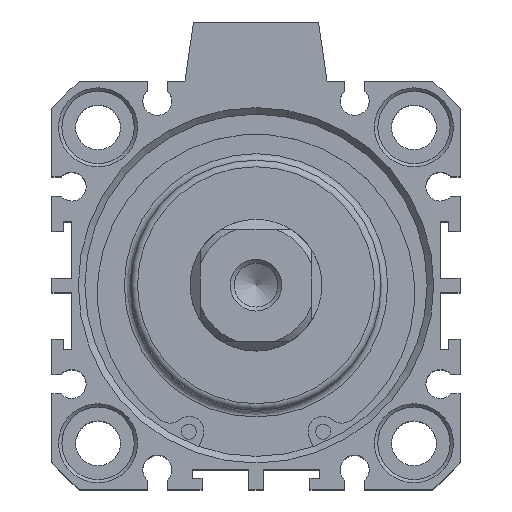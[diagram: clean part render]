
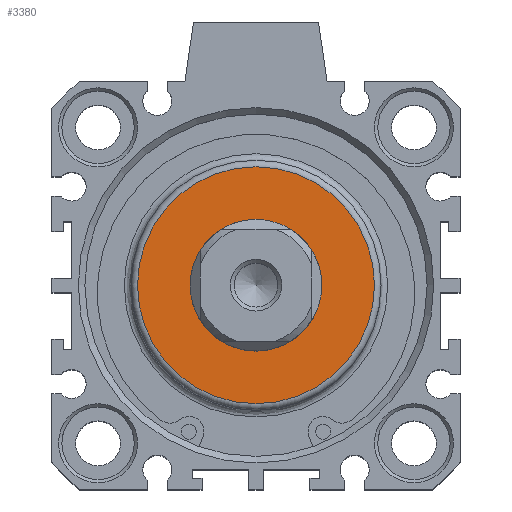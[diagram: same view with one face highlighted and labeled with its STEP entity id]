
A CAD part, top view. The second image highlights one B-rep face of the part: STEP entity #3380.
In plain terms, the highlighted planar face has unit normal (0, 0, 1).
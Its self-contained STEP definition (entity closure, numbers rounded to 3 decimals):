
#2900=CARTESIAN_POINT('',(-7.057,11.794,62.5));
#2901=VERTEX_POINT('',#2900);
#2902=CARTESIAN_POINT('',(-7.057,1.794,62.5));
#2903=DIRECTION('',(0.0,0.0,-1.0));
#2904=DIRECTION('',(0.0,1.0,0.0));
#2905=AXIS2_PLACEMENT_3D('',#2902,#2903,#2904);
#2906=CIRCLE('',#2905,10.);
#2907=EDGE_CURVE('',#2901,#2901,#2906,.T.);
#3354=CARTESIAN_POINT('',(-7.057,19.794,62.5));
#3355=VERTEX_POINT('',#3354);
#3356=CARTESIAN_POINT('',(-7.057,1.794,62.5));
#3357=DIRECTION('',(0.0,0.0,-1.0));
#3358=DIRECTION('',(0.0,-1.0,0.0));
#3359=AXIS2_PLACEMENT_3D('',#3356,#3357,#3358);
#3360=CIRCLE('',#3359,18.0);
#3361=EDGE_CURVE('',#3355,#3355,#3360,.T.);
#3369=CARTESIAN_POINT('',(-7.057,11.294,62.5));
#3370=DIRECTION('',(0.0,0.0,1.0));
#3371=DIRECTION('',(1.0,0.0,0.0));
#3372=AXIS2_PLACEMENT_3D('',#3369,#3370,#3371);
#3373=PLANE('',#3372);
#3374=ORIENTED_EDGE('',*,*,#3361,.F.);
#3375=EDGE_LOOP('',(#3374));
#3376=FACE_OUTER_BOUND('',#3375,.T.);
#3377=ORIENTED_EDGE('',*,*,#2907,.T.);
#3378=EDGE_LOOP('',(#3377));
#3379=FACE_BOUND('',#3378,.T.);
#3380=ADVANCED_FACE('',(#3376,#3379),#3373,.T.);
